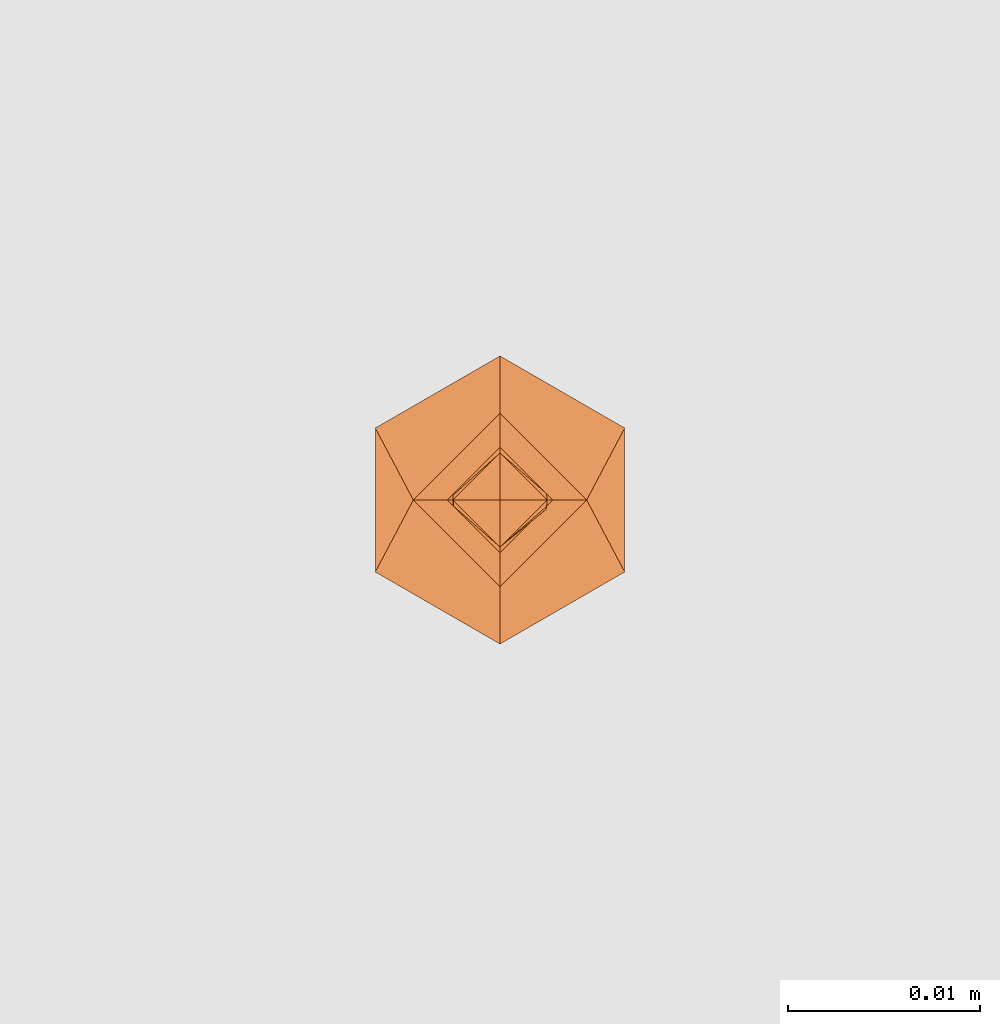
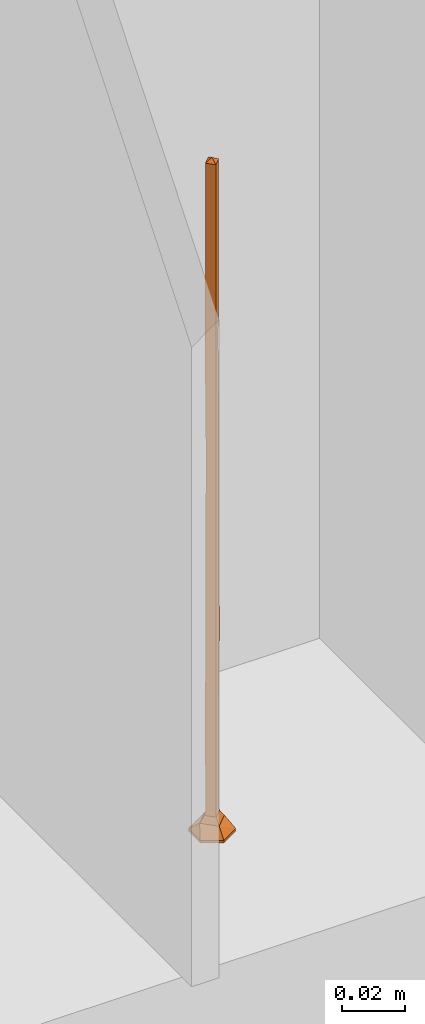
# One storey, part 2 of 2: 1 proxy.
"""IFC2X3 building model written with IfcOpenShell, lengths in millimetres."""

from ifc_helpers import new_model, entity, si_unit, converted_unit, derived_unit, direction, frame, origin, place, context, subcontext, project, spatial, faceted_brep, source, transform, mapped, material, type_object, type_shapes, element, save


model = new_model("IFC2X3")

# Units and contexts
model_context = context("Model", 3, precision=0.01, world=origin(), true_north=direction((6.123031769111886e-17, 1.0)))
body_context = subcontext(model_context, "Body", "Model", "MODEL_VIEW")
ifc_project = project(units=[si_unit("LENGTHUNIT", "METRE", prefix="MILLI"), si_unit("AREAUNIT", "SQUARE_METRE"), si_unit("VOLUMEUNIT", "CUBIC_METRE"), converted_unit("PLANEANGLEUNIT", "DEGREE", entity("IfcPlaneAngleMeasure", 0.017453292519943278), si_unit("PLANEANGLEUNIT", "RADIAN"), dimensions=[0, 0, 0, 0, 0, 0, 0]), si_unit("MASSUNIT", "GRAM", prefix="KILO"), derived_unit("MASSDENSITYUNIT", [(si_unit("MASSUNIT", "GRAM", prefix="KILO"), 1), (si_unit("LENGTHUNIT", "METRE"), -3)]), derived_unit("IONCONCENTRATIONUNIT", [(si_unit("MASSUNIT", "GRAM", prefix="KILO"), 1), (si_unit("LENGTHUNIT", "METRE"), -3)]), derived_unit("MOMENTOFINERTIAUNIT", [(si_unit("LENGTHUNIT", "METRE"), 4)]), si_unit("TIMEUNIT", "SECOND"), si_unit("FREQUENCYUNIT", "HERTZ"), si_unit("THERMODYNAMICTEMPERATUREUNIT", "DEGREE_CELSIUS"), derived_unit("THERMALTRANSMITTANCEUNIT", [(si_unit("MASSUNIT", "GRAM", prefix="KILO"), 1), (si_unit("THERMODYNAMICTEMPERATUREUNIT", "KELVIN"), -1), (si_unit("TIMEUNIT", "SECOND"), -3)]), derived_unit("THERMALCONDUCTANCEUNIT", [(si_unit("MASSUNIT", "GRAM", prefix="KILO"), 1), (si_unit("THERMODYNAMICTEMPERATUREUNIT", "KELVIN"), -1), (si_unit("TIMEUNIT", "SECOND"), -3), (si_unit("LENGTHUNIT", "METRE"), 1)]), derived_unit("VOLUMETRICFLOWRATEUNIT", [(si_unit("LENGTHUNIT", "METRE", prefix="DECI"), 3), (si_unit("TIMEUNIT", "SECOND"), -1)]), derived_unit("MASSFLOWRATEUNIT", [(si_unit("MASSUNIT", "GRAM", prefix="KILO"), 1), (si_unit("TIMEUNIT", "SECOND"), -1)]), derived_unit("ROTATIONALFREQUENCYUNIT", [(si_unit("TIMEUNIT", "SECOND"), -1)]), si_unit("ELECTRICCURRENTUNIT", "AMPERE"), si_unit("ELECTRICVOLTAGEUNIT", "VOLT"), si_unit("POWERUNIT", "WATT"), si_unit("FORCEUNIT", "NEWTON", prefix="KILO"), si_unit("ILLUMINANCEUNIT", "LUX"), si_unit("LUMINOUSFLUXUNIT", "LUMEN"), si_unit("LUMINOUSINTENSITYUNIT", "CANDELA"), si_unit("ENERGYUNIT", "JOULE"), derived_unit("USERDEFINED", [(si_unit("MASSUNIT", "GRAM", prefix="KILO"), -1), (si_unit("LENGTHUNIT", "METRE"), -2), (si_unit("TIMEUNIT", "SECOND"), 3), (si_unit("LUMINOUSFLUXUNIT", "LUMEN"), 1)]), derived_unit("USERDEFINED", [(si_unit("MASSUNIT", "GRAM", prefix="KILO"), 1), (si_unit("TIMEUNIT", "SECOND"), -3), (si_unit("LENGTHUNIT", "METRE"), 3), (si_unit("ELECTRICCURRENTUNIT", "AMPERE"), -2)]), derived_unit("SOUNDPOWERUNIT", [(si_unit("MASSUNIT", "GRAM", prefix="KILO"), 1), (si_unit("TIMEUNIT", "SECOND"), -3), (si_unit("LENGTHUNIT", "METRE"), 2)]), derived_unit("SOUNDPRESSUREUNIT", [(si_unit("MASSUNIT", "GRAM", prefix="KILO"), 1), (si_unit("LENGTHUNIT", "METRE"), -1), (si_unit("TIMEUNIT", "SECOND"), -2)]), derived_unit("LINEARVELOCITYUNIT", [(si_unit("LENGTHUNIT", "METRE"), 1), (si_unit("TIMEUNIT", "SECOND"), -1)]), si_unit("PRESSUREUNIT", "PASCAL"), derived_unit("USERDEFINED", [(si_unit("MASSUNIT", "GRAM", prefix="KILO"), 1), (si_unit("LENGTHUNIT", "METRE"), -2), (si_unit("TIMEUNIT", "SECOND"), -2)]), derived_unit("LINEARFORCEUNIT", [(si_unit("MASSUNIT", "GRAM", prefix="KILO"), 1), (si_unit("TIMEUNIT", "SECOND"), -2)]), derived_unit("PLANARFORCEUNIT", [(si_unit("MASSUNIT", "GRAM", prefix="KILO"), 1), (si_unit("LENGTHUNIT", "METRE"), -1), (si_unit("TIMEUNIT", "SECOND"), -2)]), derived_unit("SPECIFICHEATCAPACITYUNIT", [(si_unit("THERMODYNAMICTEMPERATUREUNIT", "KELVIN"), -1), (si_unit("LENGTHUNIT", "METRE"), 2), (si_unit("TIMEUNIT", "SECOND"), -2)]), derived_unit("HEATFLUXDENSITYUNIT", [(si_unit("MASSUNIT", "GRAM", prefix="KILO"), 1), (si_unit("TIMEUNIT", "SECOND"), -3)]), derived_unit("HEATINGVALUEUNIT", [(si_unit("LENGTHUNIT", "METRE"), 2), (si_unit("TIMEUNIT", "SECOND"), -2)]), derived_unit("VAPORPERMEABILITYUNIT", [(si_unit("LENGTHUNIT", "METRE"), -1), (si_unit("TIMEUNIT", "SECOND"), 1)]), derived_unit("DYNAMICVISCOSITYUNIT", [(si_unit("MASSUNIT", "GRAM", prefix="KILO"), 1), (si_unit("TIMEUNIT", "SECOND"), -1), (si_unit("LENGTHUNIT", "METRE"), -1)]), derived_unit("THERMALEXPANSIONCOEFFICIENTUNIT", [(si_unit("THERMODYNAMICTEMPERATUREUNIT", "KELVIN"), -1)]), derived_unit("MODULUSOFELASTICITYUNIT", [(si_unit("MASSUNIT", "GRAM", prefix="KILO"), 1), (si_unit("LENGTHUNIT", "METRE"), -1), (si_unit("TIMEUNIT", "SECOND"), -2)]), derived_unit("ISOTHERMALMOISTURECAPACITYUNIT", [(si_unit("MASSUNIT", "GRAM", prefix="KILO"), -1), (si_unit("LENGTHUNIT", "METRE"), 3)]), derived_unit("MOISTUREDIFFUSIVITYUNIT", [(si_unit("TIMEUNIT", "SECOND"), -1), (si_unit("LENGTHUNIT", "METRE"), 2)]), derived_unit("MASSPERLENGTHUNIT", [(si_unit("MASSUNIT", "GRAM", prefix="KILO"), 1), (si_unit("LENGTHUNIT", "METRE"), -1)]), derived_unit("THERMALRESISTANCEUNIT", [(si_unit("MASSUNIT", "GRAM", prefix="KILO"), -1), (si_unit("TIMEUNIT", "SECOND"), 3), (si_unit("THERMODYNAMICTEMPERATUREUNIT", "KELVIN"), 1)]), derived_unit("ACCELERATIONUNIT", [(si_unit("LENGTHUNIT", "METRE"), 1), (si_unit("TIMEUNIT", "SECOND"), -2)]), derived_unit("ANGULARVELOCITYUNIT", [(si_unit("TIMEUNIT", "SECOND"), -1), (si_unit("PLANEANGLEUNIT", "RADIAN"), 1)]), derived_unit("LINEARSTIFFNESSUNIT", [(si_unit("MASSUNIT", "GRAM", prefix="KILO"), 1), (si_unit("TIMEUNIT", "SECOND"), -2)]), derived_unit("WARPINGCONSTANTUNIT", [(si_unit("LENGTHUNIT", "METRE"), 6)]), derived_unit("LINEARMOMENTUNIT", [(si_unit("MASSUNIT", "GRAM", prefix="KILO"), 1), (si_unit("LENGTHUNIT", "METRE"), 1), (si_unit("TIMEUNIT", "SECOND"), -2)]), derived_unit("TORQUEUNIT", [(si_unit("MASSUNIT", "GRAM", prefix="KILO"), 1), (si_unit("LENGTHUNIT", "METRE"), 2), (si_unit("TIMEUNIT", "SECOND"), -2)])], contexts=[model_context])

# Site, building, storey
site_placement = place(None, origin())
site = spatial("IfcSite", under=ifc_project, at=site_placement, Name="Default", CompositionType="ELEMENT")
building_placement = place(site_placement, origin())
building = spatial("IfcBuilding", under=site, at=building_placement, Name="Building Name", CompositionType="ELEMENT")
storey_placement = place(building_placement, frame((0.0, 0.0, 13893.0)))
storey = spatial("IfcBuildingStorey", under=building, at=storey_placement, Name="U/S SECOND FLOOR", CompositionType="ELEMENT", Elevation=13893.000000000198)

# Proxy
ifc_material = material(Name="<Unnamed>")
building_element_proxy_type = type_object("IfcBuildingElementProxyType", Name="CSK SCREW 8mm_with_Void:8-260/243_90°", PredefinedType="NOTDEFINED", material=ifc_material)
shared_shape = source(origin(), body_context, "Body", "Brep", [
    faceted_brep([(-2.450000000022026, 0.0, -231.22838210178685), (8.511511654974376e-09, 2.450000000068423, -217.5649274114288), (0.0, 2.45000000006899, -258.5552918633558), (0.0, 2.450000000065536, -8.777915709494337), (2.4500000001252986, 0.0, -8.777915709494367), (2.4500000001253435, 0.0, -36.10482584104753), (2.4500000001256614, 0.0, -231.2283817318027), (2.4500000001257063, 0.0, -258.5552918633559), (0.9340491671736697, 1.5159508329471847, -258.5552918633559), (-2.450000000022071, 0.0, -203.90147234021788), (-2.4500000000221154, 0.0, -176.5745625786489), (0.3118487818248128, 2.430072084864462, -149.27769130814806), (-0.25950752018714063, 2.4362175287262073, -187.0012319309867), (0.22774305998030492, 2.4393919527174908, -115.89278608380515), (-2.45000000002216, 0.0, -149.24765160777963), (-2.4500000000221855, 0.0, -133.66660456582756), (-2.4500000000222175, 0.0, -114.13021763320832), (-0.06297208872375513, 2.449190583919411, -54.36239699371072), (0.2338659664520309, 2.438812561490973, -86.8333479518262), (2.4500000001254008, 0.0, -71.22225974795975), (2.4500000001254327, 0.0, -90.75864730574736), (2.450000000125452, 0.0, -102.44443176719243), (-2.450000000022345, 0.0, -36.10482547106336), (-2.4500000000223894, 0.0, -8.777915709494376), (-0.46702458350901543, 1.9829754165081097, -258.5552918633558), (-0.934049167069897, 1.5159508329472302, -258.5552918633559), (-2.4500000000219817, 0.0, -258.5552918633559), (2.4500000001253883, 0.0, -63.43173758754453), (2.4500000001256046, 0.0, -196.1109478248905), (-2.4500000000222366, 0.0, -102.4444327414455), (-2.450000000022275, 0.0, -79.012783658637), (-2.4500000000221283, 0.0, -168.7840381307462), (2.450000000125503, 0.0, -133.66660378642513), (2.450000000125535, 0.0, -153.2029901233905), (2.4500000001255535, 0.0, -164.88877580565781), (2.4500000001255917, 0.0, -188.32042322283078), (-2.4500000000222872, 0.0, -71.22226091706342), (2.4500000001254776, 0.0, -118.08555702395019), (0.23416485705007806, -2.4387838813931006, -104.42210271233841), (0.48938408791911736, -2.400625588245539, -77.01362915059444), (0.21724671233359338, -2.4403491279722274, -161.18585108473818), (3.729015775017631e-08, -2.450000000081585, -49.7682823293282), (0.0, -2.4500000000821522, -8.777915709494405), (0.33011295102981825, -2.4276584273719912, -134.1574023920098), (1.5535356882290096e-08, -2.450000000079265, -217.5649274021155), (0.0, -2.4500000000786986, -258.5552918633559), (-0.3254229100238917, -2.428291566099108, -187.94798616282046), (0.46702458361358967, -1.9829754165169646, -258.5552918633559), (0.9340491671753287, -1.515950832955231, -258.5552918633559), (-0.9340491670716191, -1.5159508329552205, -258.5552918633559), (1.3232025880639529, 0.0, -259.21973814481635), (0.0, 0.0, -260.0), (-1.3232025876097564, 0.0, -259.219738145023), (0.0, 2.739138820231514, -7.0), (2.739138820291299, 0.0, -7.0), (-2.7391388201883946, 0.0, -7.0), (0.0, -2.7391388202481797, -7.0), (4.514810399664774, 0.0, -4.6000000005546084), (0.0, 4.51481039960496, -4.600000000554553), (-4.5148103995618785, 0.0, -4.6000000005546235), (0.0, -4.514810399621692, -4.600000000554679), (3.7500000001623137, 6.495190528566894, -1.0), (6.073211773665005, 2.47126970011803, -1.0), (7.500000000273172, 0.0, -1.0), (-3.75000000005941, 6.495190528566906, -1.0), (-7.500000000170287, 0.0, -1.0), (-5.6250000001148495, 3.247595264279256, -1.0), (0.0, 6.4951905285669, -1.0), (-3.7500000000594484, -6.495190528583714, -1.0), (-6.073211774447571, -2.471269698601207, -1.0), (3.7500000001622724, -6.495190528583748, -1.0), (5.625000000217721, -3.2475952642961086, -1.0), (0.0, -6.495190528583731, -1.0), (5.6250000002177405, 3.2475952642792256, 0.0), (7.50000000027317, 0.0, 0.0), (3.750000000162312, 6.495190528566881, 0.0), (0.0, 6.495190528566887, 0.0), (-3.7500000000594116, 6.4951905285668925, 0.0), (-6.073211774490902, 2.4712696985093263, 0.0), (-7.500000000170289, 0.0, 0.0), (-5.625000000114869, -3.2475952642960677, 0.0), (-3.7500000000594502, -6.495190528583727, 0.0), (0.0, -6.495190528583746, 0.0), (3.7500000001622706, -6.495190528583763, 0.0), (6.073211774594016, -2.4712696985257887, 0.0), (0.0, 0.0, 0.0)], [[[0, 1, 2]], [[3, 4, 5]], [[6, 7, 8, 2]], [[9, 1, 0]], [[10, 11, 12]], [[1, 9, 12]], [[13, 14, 15, 16]], [[5, 17, 3]], [[16, 18, 13]], [[18, 19, 20, 21]], [[22, 23, 3]], [[0, 2, 24, 25, 26]], [[17, 5, 27, 19]], [[28, 1, 12]], [[18, 17, 19]], [[18, 16, 29, 30]], [[28, 6, 1]], [[2, 1, 6]], [[11, 10, 31, 14]], [[18, 21, 13]], [[11, 32, 33, 34]], [[12, 34, 35, 28]], [[17, 30, 36, 22]], [[30, 17, 18]], [[17, 22, 3]], [[13, 21, 37, 32]], [[13, 32, 11]], [[12, 11, 34]], [[13, 11, 14]], [[12, 9, 10]], [[29, 38, 39]], [[40, 15, 14, 31]], [[41, 42, 22]], [[15, 43, 38]], [[44, 45, 6]], [[44, 35, 46]], [[42, 41, 5]], [[45, 44, 0]], [[38, 37, 21, 20]], [[33, 43, 40]], [[39, 36, 30, 29]], [[6, 45, 47, 48, 7]], [[5, 4, 42]], [[42, 23, 22]], [[0, 26, 49, 45]], [[0, 44, 9]], [[44, 6, 28, 35]], [[5, 41, 27]], [[36, 41, 22]], [[39, 20, 19, 27]], [[39, 27, 41]], [[38, 29, 16, 15]], [[46, 40, 31]], [[37, 38, 43]], [[44, 46, 9]], [[43, 33, 32, 37]], [[40, 35, 34, 33]], [[46, 31, 10, 9]], [[36, 39, 41]], [[20, 39, 38]], [[40, 43, 15]], [[35, 40, 46]], [[8, 7, 50, 51, 2]], [[2, 51, 52, 26, 25, 24]], [[49, 26, 52, 51, 45]], [[45, 51, 50, 7, 48, 47]], [[4, 3, 53, 54]], [[53, 3, 23, 55]], [[23, 42, 56, 55]], [[56, 42, 4, 54]], [[57, 54, 53, 58]], [[53, 55, 59, 58]], [[59, 55, 56, 60]], [[56, 54, 57, 60]], [[57, 61, 62, 63]], [[61, 57, 58]], [[58, 59, 64]], [[59, 65, 66, 64]], [[58, 64, 67, 61]], [[59, 68, 69, 65]], [[68, 59, 60]], [[60, 57, 70]], [[57, 63, 71, 70]], [[60, 70, 72, 68]], [[73, 74, 63, 62, 61, 75]], [[76, 75, 61, 67, 64, 77]], [[78, 77, 64, 66, 65, 79]], [[80, 79, 65, 69, 68, 81]], [[82, 81, 68, 72, 70, 83]], [[84, 83, 70, 71, 63, 74]], [[85, 77, 78]], [[85, 78, 79]], [[85, 79, 80]], [[85, 76, 77]], [[85, 75, 76]], [[85, 73, 75]], [[85, 74, 73]], [[85, 80, 81]], [[85, 81, 82]], [[85, 84, 74]], [[85, 83, 84]], [[85, 82, 83]]]),
])
type_shapes(building_element_proxy_type, [shared_shape])
proxy_placement = place(storey_placement, frame((5627.592454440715, 15106.586825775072, -442.1249999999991), z_axis=(0.0, 0.0, -1.0), x_axis=(0.0, -1.0, 0.0)))
element("IfcBuildingElementProxy", 1, at=proxy_placement, inside=storey, type_object=building_element_proxy_type, material=ifc_material, Name="CSK SCREW 8mm_with_Void:8-260/243_90°", ObjectType="CSK SCREW 8mm_with_Void:8-260/243_90°", context=body_context, shape_type="MappedRepresentation", body=[
    mapped(shared_shape, transform((0.0, 0.0, 0.0), scale=1.0)),
])

save(model, "model.ifc")
